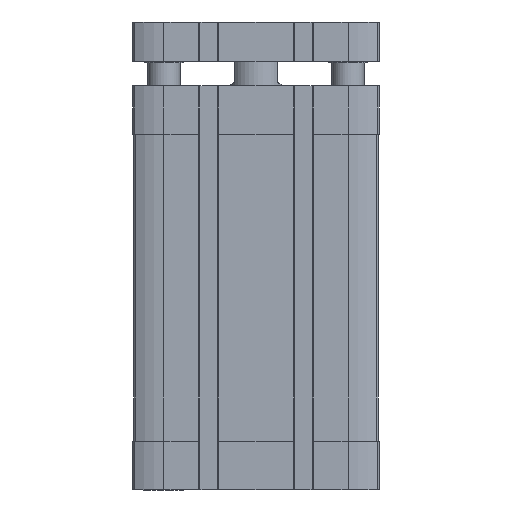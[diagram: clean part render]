
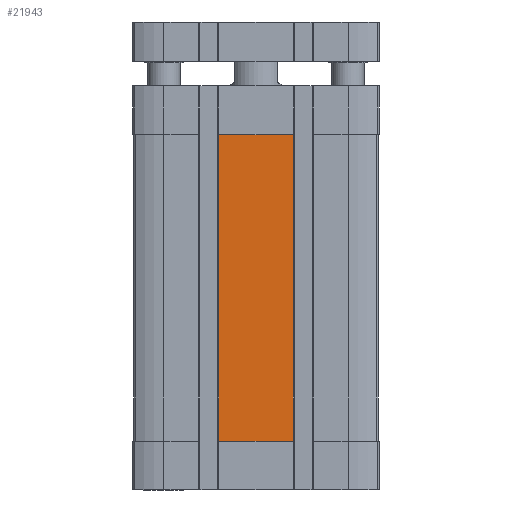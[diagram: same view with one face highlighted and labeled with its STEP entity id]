
A CAD part, left-side view. The second image highlights one B-rep face of the part: STEP entity #21943.
In plain terms, the highlighted planar face has unit normal (-1, 0, 0) as drawn and (0, 1, 0) by its records, which use the part's own axes.
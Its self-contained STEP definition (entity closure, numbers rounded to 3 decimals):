
#1065 = EDGE_CURVE ( 'NONE', #19510, #21018, #20532, .T. ) ;
#1184 = PLANE ( 'NONE',  #15161 ) ;
#1539 = EDGE_CURVE ( 'NONE', #13863, #19510, #18253, .T. ) ;
#1732 = CARTESIAN_POINT ( 'NONE',  ( 11.4, 37.5, -15. ) ) ;
#2973 = CARTESIAN_POINT ( 'NONE',  ( 11.4, 37.5, -109. ) ) ;
#4104 = DIRECTION ( 'NONE',  ( 0., 0., -1. ) ) ;
#4309 = ORIENTED_EDGE ( 'NONE', *, *, #9864, .T. ) ;
#4489 = LINE ( 'NONE', #5885, #18155 ) ;
#4634 = CARTESIAN_POINT ( 'NONE',  ( -11.4, 37.5, -15. ) ) ;
#5885 = CARTESIAN_POINT ( 'NONE',  ( -11.4, 37.5, -109. ) ) ;
#6726 = VECTOR ( 'NONE', #8948, 1000. ) ;
#8309 = DIRECTION ( 'NONE',  ( 0., 0., 1. ) ) ;
#8948 = DIRECTION ( 'NONE',  ( 1., 0., 0. ) ) ;
#9168 = EDGE_CURVE ( 'NONE', #16460, #13863, #16213, .T. ) ;
#9864 = EDGE_CURVE ( 'NONE', #21018, #16460, #4489, .T. ) ;
#9889 = VECTOR ( 'NONE', #22474, 1000. ) ;
#10760 = CARTESIAN_POINT ( 'NONE',  ( 0., 37.5, -15. ) ) ;
#11175 = CARTESIAN_POINT ( 'NONE',  ( 11.4, 37.5, -109. ) ) ;
#11848 = ORIENTED_EDGE ( 'NONE', *, *, #9168, .T. ) ;
#12941 = ORIENTED_EDGE ( 'NONE', *, *, #1065, .T. ) ;
#12986 = DIRECTION ( 'NONE',  ( 0., 0., 1. ) ) ;
#13063 = FACE_OUTER_BOUND ( 'NONE', #14639, .T. ) ;
#13501 = VECTOR ( 'NONE', #4104, 1000. ) ;
#13657 = CARTESIAN_POINT ( 'NONE',  ( 11.4, 37.5, -109. ) ) ;
#13863 = VERTEX_POINT ( 'NONE', #1732 ) ;
#13977 = ORIENTED_EDGE ( 'NONE', *, *, #1539, .T. ) ;
#14378 = CARTESIAN_POINT ( 'NONE',  ( -11.4, 37.5, -109. ) ) ;
#14639 = EDGE_LOOP ( 'NONE', ( #12941, #4309, #11848, #13977 ) ) ;
#15161 = AXIS2_PLACEMENT_3D ( 'NONE', #2973, #19023, #8309 ) ;
#16213 = LINE ( 'NONE', #10760, #6726 ) ;
#16460 = VERTEX_POINT ( 'NONE', #4634 ) ;
#18155 = VECTOR ( 'NONE', #12986, 1000. ) ;
#18253 = LINE ( 'NONE', #11175, #13501 ) ;
#19023 = DIRECTION ( 'NONE',  ( 0., 1., 0. ) ) ;
#19510 = VERTEX_POINT ( 'NONE', #20985 ) ;
#20532 = LINE ( 'NONE', #13657, #9889 ) ;
#20985 = CARTESIAN_POINT ( 'NONE',  ( 11.4, 37.5, -109. ) ) ;
#21018 = VERTEX_POINT ( 'NONE', #14378 ) ;
#21943 = ADVANCED_FACE ( 'NONE', ( #13063 ), #1184, .T. ) ;
#22474 = DIRECTION ( 'NONE',  ( -1., 0., 0. ) ) ;
